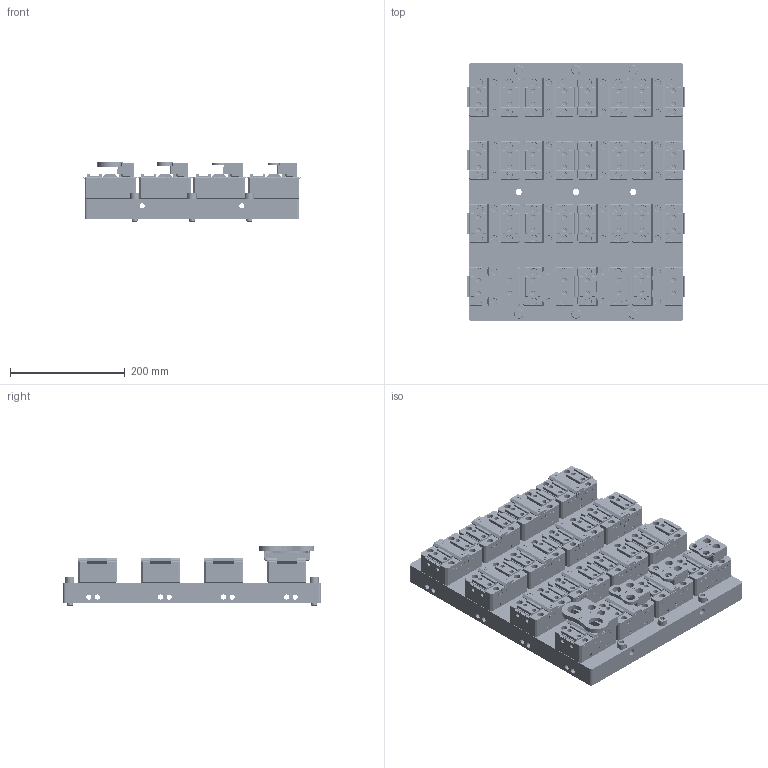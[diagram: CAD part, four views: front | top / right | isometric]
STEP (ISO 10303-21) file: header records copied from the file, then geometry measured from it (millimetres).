
FILE_DESCRIPTION(/* description */ (''),/* implementation_level */ '2;1');
FILE_NAME(/* name */ '',/* time_stamp */ '2024-12-30T11:23:38+08:00',/* author */ (''),/* organization */ (''),/* preprocessor_version */ 'ST-DEVELOPER v11',/* originating_system */ 'SIEMENS PLM Software NX 7.0',/* authorisation */ '');
FILE_SCHEMA (('CONFIG_CONTROL_DESIGN'));
Products named in the file (1): Admi45F83run
Bounding box: 380 x 450 x 103.5 mm (x, y, z)
Volume: 8346921.5 mm3; surface area: 1648129.6 mm2
Topology: 175 solids, 175 shells, 17757 faces, 46074 edges, 30646 vertices
Faces by surface type: plane 13629, extrusion 1786, cylinder 1694, cone 632, torus 16
Full cylindrical faces by diameter (mm): 4.2 x64, 4.5 x64, 5 x192, 6 x128, 6.5 x128, 6.7 x64, 8 x104, 9 x34, 10 x39, 11 x73, 11.7 x2, 12 x211, 14 x16, 16 x8, 18 x9, 25 x2, 50 x16
Entity records: 556571 total; most frequent: CARTESIAN_POINT 135479, ORIENTED_EDGE 87012, DIRECTION 77518, EDGE_CURVE 43506, VECTOR 37740, LINE 35954, VERTEX_POINT 29764, EDGE_LOOP 22168
